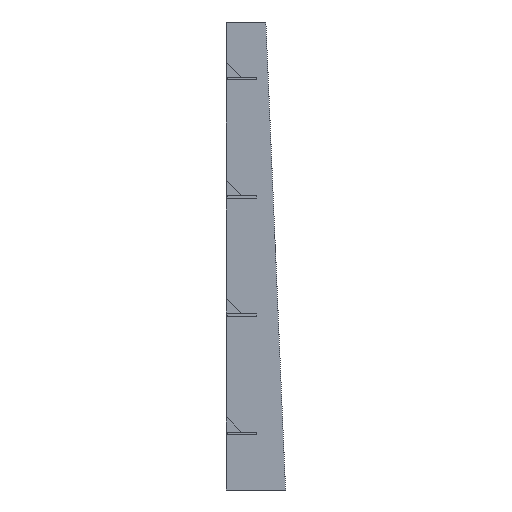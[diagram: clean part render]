
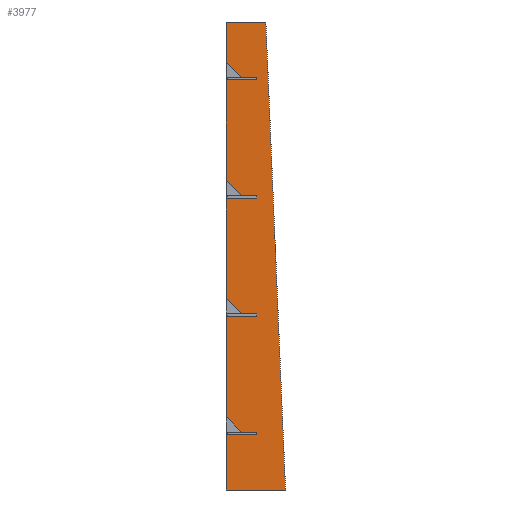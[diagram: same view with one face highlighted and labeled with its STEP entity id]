
A CAD part, left-side view. The second image highlights one B-rep face of the part: STEP entity #3977.
In plain terms, the highlighted planar face has unit normal (-1, 0, 0) as drawn and (0, 0, 1) by its records, which use the part's own axes.
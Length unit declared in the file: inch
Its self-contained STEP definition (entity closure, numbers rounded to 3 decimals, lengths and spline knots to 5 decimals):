
#261=FACE_OUTER_BOUND('',#457,.T.);
#457=EDGE_LOOP('',(#3395,#3396,#3397,#3398,#3399,#3400,#3401,#3402,#3403,
#3404,#3405,#3406,#3407,#3408,#3409,#3410,#3411,#3412,#3413,#3414,#3415,
#3416,#3417,#3418,#3419,#3420,#3421,#3422,#3423,#3424,#3425,#3426));
#898=LINE('',#6091,#1450);
#900=LINE('',#6096,#1452);
#904=LINE('',#6105,#1456);
#908=LINE('',#6112,#1460);
#911=LINE('',#6118,#1463);
#914=LINE('',#6126,#1466);
#918=LINE('',#6133,#1470);
#920=LINE('',#6136,#1472);
#923=LINE('',#6144,#1475);
#927=LINE('',#6151,#1479);
#930=LINE('',#6157,#1482);
#933=LINE('',#6165,#1485);
#937=LINE('',#6172,#1489);
#939=LINE('',#6175,#1491);
#942=LINE('',#6183,#1494);
#946=LINE('',#6190,#1498);
#949=LINE('',#6196,#1501);
#952=LINE('',#6204,#1504);
#956=LINE('',#6211,#1508);
#958=LINE('',#6214,#1510);
#959=LINE('',#6216,#1511);
#960=LINE('',#6217,#1512);
#961=LINE('',#6218,#1513);
#962=LINE('',#6220,#1514);
#963=LINE('',#6222,#1515);
#964=LINE('',#6224,#1516);
#965=LINE('',#6226,#1517);
#966=LINE('',#6228,#1518);
#967=LINE('',#6230,#1519);
#968=LINE('',#6232,#1520);
#969=LINE('',#6234,#1521);
#970=LINE('',#6235,#1522);
#1450=VECTOR('',#4971,0.3937);
#1452=VECTOR('',#4975,0.3937);
#1456=VECTOR('',#4981,0.3937);
#1460=VECTOR('',#4987,0.3937);
#1463=VECTOR('',#4992,0.3937);
#1466=VECTOR('',#4997,0.3937);
#1470=VECTOR('',#5003,0.3937);
#1472=VECTOR('',#5007,0.3937);
#1475=VECTOR('',#5012,0.3937);
#1479=VECTOR('',#5018,0.3937);
#1482=VECTOR('',#5023,0.3937);
#1485=VECTOR('',#5028,0.3937);
#1489=VECTOR('',#5034,0.3937);
#1491=VECTOR('',#5038,0.3937);
#1494=VECTOR('',#5043,0.3937);
#1498=VECTOR('',#5049,0.3937);
#1501=VECTOR('',#5054,0.3937);
#1504=VECTOR('',#5059,0.3937);
#1508=VECTOR('',#5065,0.3937);
#1510=VECTOR('',#5069,0.3937);
#1511=VECTOR('',#5072,0.3937);
#1512=VECTOR('',#5073,0.3937);
#1513=VECTOR('',#5074,0.3937);
#1514=VECTOR('',#5075,0.3937);
#1515=VECTOR('',#5076,0.3937);
#1516=VECTOR('',#5077,0.3937);
#1517=VECTOR('',#5078,0.3937);
#1518=VECTOR('',#5079,0.3937);
#1519=VECTOR('',#5080,0.3937);
#1520=VECTOR('',#5081,0.3937);
#1521=VECTOR('',#5082,0.3937);
#1522=VECTOR('',#5083,0.3937);
#1867=VERTEX_POINT('',#6084);
#1870=VERTEX_POINT('',#6089);
#1872=VERTEX_POINT('',#6095);
#1875=VERTEX_POINT('',#6102);
#1876=VERTEX_POINT('',#6104);
#1878=VERTEX_POINT('',#6110);
#1880=VERTEX_POINT('',#6116);
#1883=VERTEX_POINT('',#6123);
#1884=VERTEX_POINT('',#6125);
#1886=VERTEX_POINT('',#6131);
#1889=VERTEX_POINT('',#6141);
#1890=VERTEX_POINT('',#6143);
#1892=VERTEX_POINT('',#6149);
#1894=VERTEX_POINT('',#6155);
#1897=VERTEX_POINT('',#6162);
#1898=VERTEX_POINT('',#6164);
#1900=VERTEX_POINT('',#6170);
#1903=VERTEX_POINT('',#6180);
#1904=VERTEX_POINT('',#6182);
#1906=VERTEX_POINT('',#6188);
#1908=VERTEX_POINT('',#6194);
#1911=VERTEX_POINT('',#6201);
#1912=VERTEX_POINT('',#6203);
#1914=VERTEX_POINT('',#6209);
#1915=VERTEX_POINT('',#6219);
#1916=VERTEX_POINT('',#6221);
#1917=VERTEX_POINT('',#6223);
#1918=VERTEX_POINT('',#6225);
#1919=VERTEX_POINT('',#6227);
#1920=VERTEX_POINT('',#6229);
#1921=VERTEX_POINT('',#6231);
#1922=VERTEX_POINT('',#6233);
#2370=EDGE_CURVE('',#1867,#1870,#898,.T.);
#2372=EDGE_CURVE('',#1872,#1867,#900,.T.);
#2376=EDGE_CURVE('',#1876,#1875,#904,.T.);
#2380=EDGE_CURVE('',#1875,#1878,#908,.T.);
#2383=EDGE_CURVE('',#1878,#1880,#911,.T.);
#2386=EDGE_CURVE('',#1884,#1883,#914,.T.);
#2390=EDGE_CURVE('',#1883,#1886,#918,.T.);
#2392=EDGE_CURVE('',#1886,#1876,#920,.T.);
#2395=EDGE_CURVE('',#1890,#1889,#923,.T.);
#2399=EDGE_CURVE('',#1889,#1892,#927,.T.);
#2402=EDGE_CURVE('',#1892,#1894,#930,.T.);
#2405=EDGE_CURVE('',#1898,#1897,#933,.T.);
#2409=EDGE_CURVE('',#1897,#1900,#937,.T.);
#2411=EDGE_CURVE('',#1900,#1890,#939,.T.);
#2414=EDGE_CURVE('',#1904,#1903,#942,.T.);
#2418=EDGE_CURVE('',#1903,#1906,#946,.T.);
#2421=EDGE_CURVE('',#1906,#1908,#949,.T.);
#2424=EDGE_CURVE('',#1912,#1911,#952,.T.);
#2428=EDGE_CURVE('',#1911,#1914,#956,.T.);
#2430=EDGE_CURVE('',#1914,#1904,#958,.T.);
#2431=EDGE_CURVE('',#1870,#1884,#959,.T.);
#2432=EDGE_CURVE('',#1880,#1898,#960,.T.);
#2433=EDGE_CURVE('',#1894,#1912,#961,.T.);
#2434=EDGE_CURVE('',#1908,#1915,#962,.T.);
#2435=EDGE_CURVE('',#1915,#1916,#963,.T.);
#2436=EDGE_CURVE('',#1916,#1917,#964,.T.);
#2437=EDGE_CURVE('',#1917,#1918,#965,.T.);
#2438=EDGE_CURVE('',#1918,#1919,#966,.T.);
#2439=EDGE_CURVE('',#1919,#1920,#967,.T.);
#2440=EDGE_CURVE('',#1920,#1921,#968,.T.);
#2441=EDGE_CURVE('',#1921,#1922,#969,.T.);
#2442=EDGE_CURVE('',#1922,#1872,#970,.T.);
#3395=ORIENTED_EDGE('',*,*,#2372,.T.);
#3396=ORIENTED_EDGE('',*,*,#2370,.T.);
#3397=ORIENTED_EDGE('',*,*,#2431,.T.);
#3398=ORIENTED_EDGE('',*,*,#2386,.T.);
#3399=ORIENTED_EDGE('',*,*,#2390,.T.);
#3400=ORIENTED_EDGE('',*,*,#2392,.T.);
#3401=ORIENTED_EDGE('',*,*,#2376,.T.);
#3402=ORIENTED_EDGE('',*,*,#2380,.T.);
#3403=ORIENTED_EDGE('',*,*,#2383,.T.);
#3404=ORIENTED_EDGE('',*,*,#2432,.T.);
#3405=ORIENTED_EDGE('',*,*,#2405,.T.);
#3406=ORIENTED_EDGE('',*,*,#2409,.T.);
#3407=ORIENTED_EDGE('',*,*,#2411,.T.);
#3408=ORIENTED_EDGE('',*,*,#2395,.T.);
#3409=ORIENTED_EDGE('',*,*,#2399,.T.);
#3410=ORIENTED_EDGE('',*,*,#2402,.T.);
#3411=ORIENTED_EDGE('',*,*,#2433,.T.);
#3412=ORIENTED_EDGE('',*,*,#2424,.T.);
#3413=ORIENTED_EDGE('',*,*,#2428,.T.);
#3414=ORIENTED_EDGE('',*,*,#2430,.T.);
#3415=ORIENTED_EDGE('',*,*,#2414,.T.);
#3416=ORIENTED_EDGE('',*,*,#2418,.T.);
#3417=ORIENTED_EDGE('',*,*,#2421,.T.);
#3418=ORIENTED_EDGE('',*,*,#2434,.T.);
#3419=ORIENTED_EDGE('',*,*,#2435,.T.);
#3420=ORIENTED_EDGE('',*,*,#2436,.T.);
#3421=ORIENTED_EDGE('',*,*,#2437,.T.);
#3422=ORIENTED_EDGE('',*,*,#2438,.T.);
#3423=ORIENTED_EDGE('',*,*,#2439,.T.);
#3424=ORIENTED_EDGE('',*,*,#2440,.T.);
#3425=ORIENTED_EDGE('',*,*,#2441,.T.);
#3426=ORIENTED_EDGE('',*,*,#2442,.T.);
#3781=PLANE('',#4234);
#3977=ADVANCED_FACE('',(#261),#3781,.T.);
#4234=AXIS2_PLACEMENT_3D('',#6215,#5070,#5071);
#4971=DIRECTION('',(0.,1.,0.));
#4975=DIRECTION('',(0.999,0.042,0.));
#4981=DIRECTION('',(0.,1.,0.));
#4987=DIRECTION('',(1.,0.,0.));
#4992=DIRECTION('',(0.,1.,0.));
#4997=DIRECTION('',(-0.703,-0.711,0.));
#5003=DIRECTION('',(0.,-1.,0.));
#5007=DIRECTION('',(-1.,0.,0.));
#5012=DIRECTION('',(0.,1.,0.));
#5018=DIRECTION('',(1.,0.,0.));
#5023=DIRECTION('',(0.,1.,0.));
#5028=DIRECTION('',(-0.703,-0.711,0.));
#5034=DIRECTION('',(0.,-1.,0.));
#5038=DIRECTION('',(-1.,0.,0.));
#5043=DIRECTION('',(0.,1.,0.));
#5049=DIRECTION('',(1.,0.,0.));
#5054=DIRECTION('',(0.,1.,0.));
#5059=DIRECTION('',(-0.703,-0.711,0.));
#5065=DIRECTION('',(0.,-1.,0.));
#5069=DIRECTION('',(-1.,0.,0.));
#5070=DIRECTION('center_axis',(0.,0.,1.));
#5071=DIRECTION('ref_axis',(1.,0.,0.));
#5072=DIRECTION('',(-1.,0.,0.));
#5073=DIRECTION('',(-1.,0.,0.));
#5074=DIRECTION('',(-1.,0.,0.));
#5075=DIRECTION('',(-1.,0.,0.));
#5076=DIRECTION('',(-0.703,-0.711,0.));
#5077=DIRECTION('',(0.,-1.,0.));
#5078=DIRECTION('',(-1.,0.,0.));
#5079=DIRECTION('',(0.,1.,0.));
#5080=DIRECTION('',(1.,0.,0.));
#5081=DIRECTION('',(0.,1.,0.));
#5082=DIRECTION('',(-1.,0.,0.));
#5083=DIRECTION('',(0.,-1.,0.));
#6084=CARTESIAN_POINT('',(95.,2.,0.48));
#6089=CARTESIAN_POINT('',(95.,10.,0.48));
#6091=CARTESIAN_POINT('',(95.,0.,0.48));
#6095=CARTESIAN_POINT('',(0.,-2.,0.48));
#6096=CARTESIAN_POINT('',(71.35508,1.00442,0.48));
#6102=CARTESIAN_POINT('',(83.25,9.375,0.48));
#6104=CARTESIAN_POINT('',(83.25,4.375,0.48));
#6105=CARTESIAN_POINT('',(83.25,7.1875,0.48));
#6110=CARTESIAN_POINT('',(83.495,9.375,0.48));
#6112=CARTESIAN_POINT('',(65.4975,9.375,0.48));
#6116=CARTESIAN_POINT('',(83.495,10.,0.48));
#6118=CARTESIAN_POINT('',(83.495,7.5,0.48));
#6123=CARTESIAN_POINT('',(83.75,6.875,0.48));
#6125=CARTESIAN_POINT('',(86.8409,10.,0.48));
#6126=CARTESIAN_POINT('',(74.31821,-2.66085,0.48));
#6131=CARTESIAN_POINT('',(83.75,4.375,0.48));
#6133=CARTESIAN_POINT('',(83.75,4.6875,0.48));
#6136=CARTESIAN_POINT('',(65.375,4.375,0.48));
#6141=CARTESIAN_POINT('',(59.25,9.375,0.48));
#6143=CARTESIAN_POINT('',(59.25,4.375,0.48));
#6144=CARTESIAN_POINT('',(59.25,7.1875,0.48));
#6149=CARTESIAN_POINT('',(59.495,9.375,0.48));
#6151=CARTESIAN_POINT('',(53.4975,9.375,0.48));
#6155=CARTESIAN_POINT('',(59.495,10.,0.48));
#6157=CARTESIAN_POINT('',(59.495,7.5,0.48));
#6162=CARTESIAN_POINT('',(59.75,6.875,0.48));
#6164=CARTESIAN_POINT('',(62.8409,10.,0.48));
#6165=CARTESIAN_POINT('',(56.25238,3.33879,0.48));
#6170=CARTESIAN_POINT('',(59.75,4.375,0.48));
#6172=CARTESIAN_POINT('',(59.75,4.6875,0.48));
#6175=CARTESIAN_POINT('',(53.375,4.375,0.48));
#6180=CARTESIAN_POINT('',(35.25,9.375,0.48));
#6182=CARTESIAN_POINT('',(35.25,4.375,0.48));
#6183=CARTESIAN_POINT('',(35.25,7.1875,0.48));
#6188=CARTESIAN_POINT('',(35.495,9.375,0.48));
#6190=CARTESIAN_POINT('',(41.4975,9.375,0.48));
#6194=CARTESIAN_POINT('',(35.495,10.,0.48));
#6196=CARTESIAN_POINT('',(35.495,7.5,0.48));
#6201=CARTESIAN_POINT('',(35.75,6.875,0.48));
#6203=CARTESIAN_POINT('',(38.8409,10.,0.48));
#6204=CARTESIAN_POINT('',(38.18655,9.33843,0.48));
#6209=CARTESIAN_POINT('',(35.75,4.375,0.48));
#6211=CARTESIAN_POINT('',(35.75,4.6875,0.48));
#6214=CARTESIAN_POINT('',(41.375,4.375,0.48));
#6215=CARTESIAN_POINT('Origin',(47.5,5.,0.48));
#6216=CARTESIAN_POINT('',(95.,10.,0.48));
#6217=CARTESIAN_POINT('',(95.,10.,0.48));
#6218=CARTESIAN_POINT('',(95.,10.,0.48));
#6219=CARTESIAN_POINT('',(14.8409,10.,0.48));
#6220=CARTESIAN_POINT('',(95.,10.,0.48));
#6221=CARTESIAN_POINT('',(11.75,6.875,0.48));
#6222=CARTESIAN_POINT('',(20.12072,15.33807,0.48));
#6223=CARTESIAN_POINT('',(11.75,4.375,0.48));
#6224=CARTESIAN_POINT('',(11.75,4.6875,0.48));
#6225=CARTESIAN_POINT('',(11.25,4.375,0.48));
#6226=CARTESIAN_POINT('',(29.375,4.375,0.48));
#6227=CARTESIAN_POINT('',(11.25,9.375,0.48));
#6228=CARTESIAN_POINT('',(11.25,7.1875,0.48));
#6229=CARTESIAN_POINT('',(11.495,9.375,0.48));
#6230=CARTESIAN_POINT('',(29.4975,9.375,0.48));
#6231=CARTESIAN_POINT('',(11.495,10.,0.48));
#6232=CARTESIAN_POINT('',(11.495,7.5,0.48));
#6233=CARTESIAN_POINT('',(0.,10.,0.48));
#6234=CARTESIAN_POINT('',(95.,10.,0.48));
#6235=CARTESIAN_POINT('',(0.,10.,0.48));
